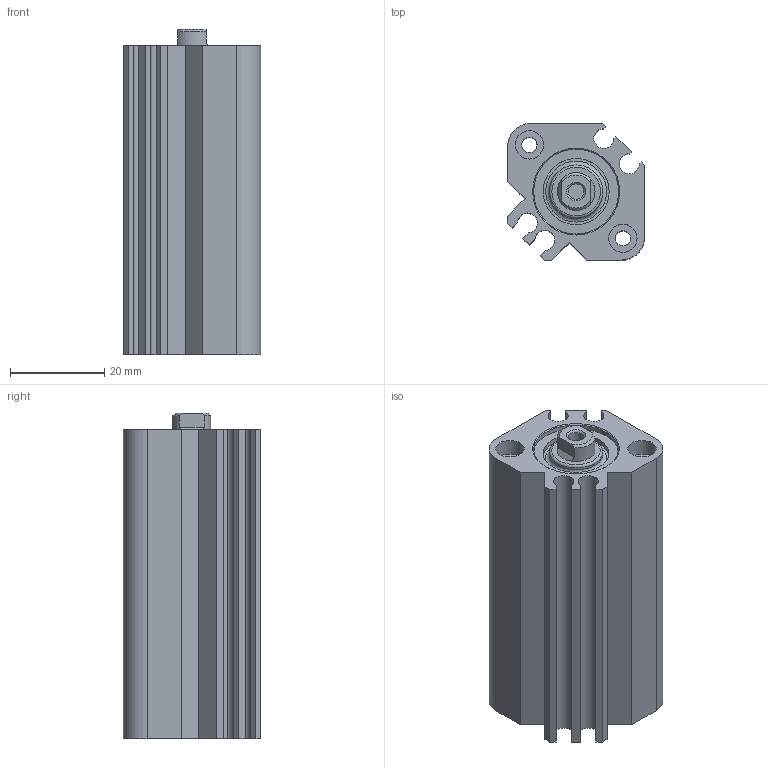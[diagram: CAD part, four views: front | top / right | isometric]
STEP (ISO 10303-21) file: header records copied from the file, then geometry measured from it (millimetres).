
FILE_DESCRIPTION( ( 'STEP AP214' ), '1' );
FILE_NAME( 'C:/Users/emc02044/Desktop/SQN SQN big size/SQN16X35-S.stp', '2026-07-28T12:30:47', ( 'License CC BY-ND 4.0' ), ( 'CADENAS' ), ' ', 'PARTsolutions', ' ' );
FILE_SCHEMA( ( 'AUTOMOTIVE_DESIGN { 1 0 10303 214 1 1 1 1 }' ) );
Length unit declared in the file: millimetre
Products named in the file (3): SQN16X35-S; _SQ16X35-S(0) ()_body; _SQ16X35-S(rod-0)
Assembly tree (2 placements, depth 2):
  SQN16X35-S
    _SQ16X35-S(0) ()_body
    _SQ16X35-S(rod-0)
Bounding box: 29.07 x 29.07 x 69 mm (x, y, z)
Volume: 36765.7 mm3; surface area: 18146.6 mm2
Topology: 2 solids, 2 shells, 85 faces, 185 edges, 121 vertices
Faces by surface type: plane 49, cylinder 26, cone 8, torus 2
Full cylindrical faces by diameter (mm): 3.242 x5, 3.4 x2, 4.134 x2, 6 x4, 8 x2, 11.3 x1, 14 x1, 16 x2, 18 x1
Entity records: 2916 total; most frequent: DIRECTION 392, CARTESIAN_POINT 374, ORIENTED_EDGE 310, EDGE_CURVE 155, AXIS2_PLACEMENT_3D 153, EDGE_LOOP 134, VERTEX_POINT 119, FACE_OUTER_BOUND 107
